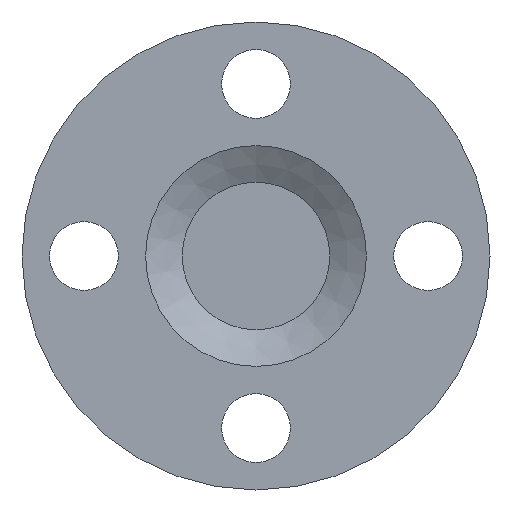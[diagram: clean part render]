
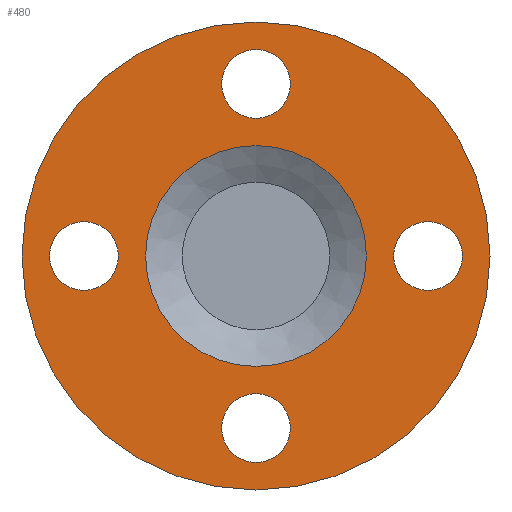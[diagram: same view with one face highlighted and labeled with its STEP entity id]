
A CAD part, left-side view. The second image highlights one B-rep face of the part: STEP entity #480.
In plain terms, the highlighted planar face has unit normal (-1, 0, 0).
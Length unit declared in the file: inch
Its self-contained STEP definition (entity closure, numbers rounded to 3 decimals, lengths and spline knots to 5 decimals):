
#480 = ADVANCED_FACE( '', ( #1355, #1356, #1357, #1358, #1359, #1360 ), #1361, .T. );
#1355 = FACE_BOUND( '', #2957, .T. );
#1356 = FACE_BOUND( '', #2958, .T. );
#1357 = FACE_OUTER_BOUND( '', #2959, .T. );
#1358 = FACE_BOUND( '', #2960, .T. );
#1359 = FACE_BOUND( '', #2961, .T. );
#1360 = FACE_BOUND( '', #2962, .T. );
#1361 = PLANE( '', #2963 );
#2957 = EDGE_LOOP( '', ( #7735 ) );
#2958 = EDGE_LOOP( '', ( #7736 ) );
#2959 = EDGE_LOOP( '', ( #7737 ) );
#2960 = EDGE_LOOP( '', ( #7738 ) );
#2961 = EDGE_LOOP( '', ( #7739 ) );
#2962 = EDGE_LOOP( '', ( #7740 ) );
#2963 = AXIS2_PLACEMENT_3D( '', #7741, #7742, #7743 );
#7735 = ORIENTED_EDGE( '', *, *, #11231, .T. );
#7736 = ORIENTED_EDGE( '', *, *, #11232, .T. );
#7737 = ORIENTED_EDGE( '', *, *, #11233, .T. );
#7738 = ORIENTED_EDGE( '', *, *, #11234, .F. );
#7739 = ORIENTED_EDGE( '', *, *, #11235, .T. );
#7740 = ORIENTED_EDGE( '', *, *, #11236, .T. );
#7741 = CARTESIAN_POINT( '', ( 0.06, 0., 1.0025 ) );
#7742 = DIRECTION( '', ( -1., 0., 0. ) );
#7743 = DIRECTION( '', ( 0., 0., 1. ) );
#11231 = EDGE_CURVE( '', #12783, #12783, #12784, .T. );
#11232 = EDGE_CURVE( '', #12785, #12785, #12786, .T. );
#11233 = EDGE_CURVE( '', #12787, #12787, #12788, .T. );
#11234 = EDGE_CURVE( '', #12789, #12789, #12790, .T. );
#11235 = EDGE_CURVE( '', #12791, #12791, #12792, .T. );
#11236 = EDGE_CURVE( '', #12793, #12793, #12794, .T. );
#12783 = VERTEX_POINT( '', #15367 );
#12784 = CIRCLE( '', #15368, 0.3125 );
#12785 = VERTEX_POINT( '', #15369 );
#12786 = CIRCLE( '', #15370, 0.3125 );
#12787 = VERTEX_POINT( '', #15371 );
#12788 = CIRCLE( '', #15372, 2.125 );
#12789 = VERTEX_POINT( '', #15373 );
#12790 = CIRCLE( '', #15374, 1.0025 );
#12791 = VERTEX_POINT( '', #15375 );
#12792 = CIRCLE( '', #15376, 0.3125 );
#12793 = VERTEX_POINT( '', #15377 );
#12794 = CIRCLE( '', #15378, 0.3125 );
#15367 = CARTESIAN_POINT( '', ( 0.06, 0.3125, -1.5625 ) );
#15368 = AXIS2_PLACEMENT_3D( '', #20980, #20981, #20982 );
#15369 = CARTESIAN_POINT( '', ( 0.06, -0.3125, 1.5625 ) );
#15370 = AXIS2_PLACEMENT_3D( '', #20983, #20984, #20985 );
#15371 = CARTESIAN_POINT( '', ( 0.06, 0., 2.125 ) );
#15372 = AXIS2_PLACEMENT_3D( '', #20986, #20987, #20988 );
#15373 = CARTESIAN_POINT( '', ( 0.06, 0., 1.0025 ) );
#15374 = AXIS2_PLACEMENT_3D( '', #20989, #20990, #20991 );
#15375 = CARTESIAN_POINT( '', ( 0.06, -1.5625, -0.3125 ) );
#15376 = AXIS2_PLACEMENT_3D( '', #20992, #20993, #20994 );
#15377 = CARTESIAN_POINT( '', ( 0.06, 1.5625, 0.3125 ) );
#15378 = AXIS2_PLACEMENT_3D( '', #20995, #20996, #20997 );
#20980 = CARTESIAN_POINT( '', ( 0.06, 0., -1.5625 ) );
#20981 = DIRECTION( '', ( 1., 0., 0. ) );
#20982 = DIRECTION( '', ( 0., 1., 0. ) );
#20983 = CARTESIAN_POINT( '', ( 0.06, 0., 1.5625 ) );
#20984 = DIRECTION( '', ( 1., 0., 0. ) );
#20985 = DIRECTION( '', ( 0., -1., 0. ) );
#20986 = CARTESIAN_POINT( '', ( 0.06, 0., 0. ) );
#20987 = DIRECTION( '', ( -1., 0., 0. ) );
#20988 = DIRECTION( '', ( 0., 0., 1. ) );
#20989 = CARTESIAN_POINT( '', ( 0.06, 0., 0. ) );
#20990 = DIRECTION( '', ( -1., 0., 0. ) );
#20991 = DIRECTION( '', ( 0., 0., 1. ) );
#20992 = CARTESIAN_POINT( '', ( 0.06, -1.5625, 0. ) );
#20993 = DIRECTION( '', ( 1., 0., 0. ) );
#20994 = DIRECTION( '', ( 0., 0., -1. ) );
#20995 = CARTESIAN_POINT( '', ( 0.06, 1.5625, 0. ) );
#20996 = DIRECTION( '', ( 1., 0., 0. ) );
#20997 = DIRECTION( '', ( 0., 0., 1. ) );
